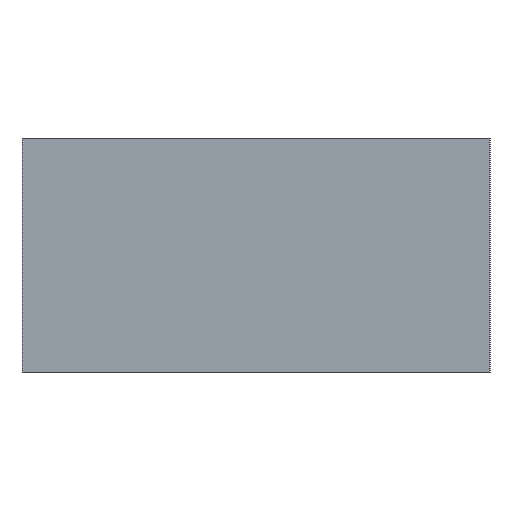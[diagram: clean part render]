
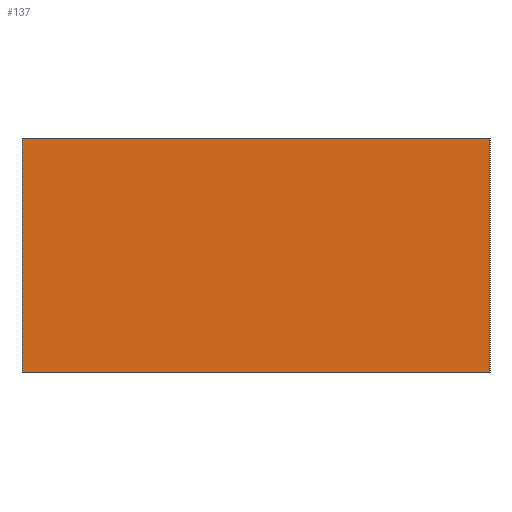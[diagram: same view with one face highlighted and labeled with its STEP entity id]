
A CAD part, left-side view. The second image highlights one B-rep face of the part: STEP entity #137.
In plain terms, the highlighted planar face has unit normal (-1, 0, 0).
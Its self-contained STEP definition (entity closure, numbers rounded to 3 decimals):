
#21 = EDGE_CURVE('',#22,#24,#26,.T.);
#22 = VERTEX_POINT('',#23);
#23 = CARTESIAN_POINT('',(0.,0.,0.));
#24 = VERTEX_POINT('',#25);
#25 = CARTESIAN_POINT('',(0.,0.,2.));
#26 = SURFACE_CURVE('',#27,(#31,#43),.PCURVE_S1.);
#27 = LINE('',#28,#29);
#28 = CARTESIAN_POINT('',(0.,0.,0.));
#29 = VECTOR('',#30,1.);
#30 = DIRECTION('',(0.,0.,1.));
#31 = PCURVE('',#32,#37);
#32 = PLANE('',#33);
#33 = AXIS2_PLACEMENT_3D('',#34,#35,#36);
#34 = CARTESIAN_POINT('',(0.,0.,0.));
#35 = DIRECTION('',(0.,1.,0.));
#36 = DIRECTION('',(1.,0.,0.));
#37 = DEFINITIONAL_REPRESENTATION('',(#38),#42);
#38 = LINE('',#39,#40);
#39 = CARTESIAN_POINT('',(0.,0.));
#40 = VECTOR('',#41,1.);
#41 = DIRECTION('',(0.,-1.));
#42 = ( GEOMETRIC_REPRESENTATION_CONTEXT(2) 
PARAMETRIC_REPRESENTATION_CONTEXT() REPRESENTATION_CONTEXT('2D SPACE',''
  ) );
#43 = PCURVE('',#44,#49);
#44 = PLANE('',#45);
#45 = AXIS2_PLACEMENT_3D('',#46,#47,#48);
#46 = CARTESIAN_POINT('',(0.,4.,0.));
#47 = DIRECTION('',(1.,0.,-0.));
#48 = DIRECTION('',(0.,-1.,0.));
#49 = DEFINITIONAL_REPRESENTATION('',(#50),#54);
#50 = LINE('',#51,#52);
#51 = CARTESIAN_POINT('',(4.,0.));
#52 = VECTOR('',#53,1.);
#53 = DIRECTION('',(0.,-1.));
#54 = ( GEOMETRIC_REPRESENTATION_CONTEXT(2) 
PARAMETRIC_REPRESENTATION_CONTEXT() REPRESENTATION_CONTEXT('2D SPACE',''
  ) );
#72 = PLANE('',#73);
#73 = AXIS2_PLACEMENT_3D('',#74,#75,#76);
#74 = CARTESIAN_POINT('',(5.,2.,2.));
#75 = DIRECTION('',(0.,0.,1.));
#76 = DIRECTION('',(1.,0.,-0.));
#126 = PLANE('',#127);
#127 = AXIS2_PLACEMENT_3D('',#128,#129,#130);
#128 = CARTESIAN_POINT('',(5.,2.,0.));
#129 = DIRECTION('',(0.,0.,1.));
#130 = DIRECTION('',(1.,0.,-0.));
#137 = ADVANCED_FACE('',(#138),#44,.F.);
#138 = FACE_BOUND('',#139,.F.);
#139 = EDGE_LOOP('',(#140,#170,#191,#192));
#140 = ORIENTED_EDGE('',*,*,#141,.T.);
#141 = EDGE_CURVE('',#142,#144,#146,.T.);
#142 = VERTEX_POINT('',#143);
#143 = CARTESIAN_POINT('',(0.,4.,0.));
#144 = VERTEX_POINT('',#145);
#145 = CARTESIAN_POINT('',(0.,4.,2.));
#146 = SURFACE_CURVE('',#147,(#151,#158),.PCURVE_S1.);
#147 = LINE('',#148,#149);
#148 = CARTESIAN_POINT('',(0.,4.,0.));
#149 = VECTOR('',#150,1.);
#150 = DIRECTION('',(0.,0.,1.));
#151 = PCURVE('',#44,#152);
#152 = DEFINITIONAL_REPRESENTATION('',(#153),#157);
#153 = LINE('',#154,#155);
#154 = CARTESIAN_POINT('',(0.,0.));
#155 = VECTOR('',#156,1.);
#156 = DIRECTION('',(0.,-1.));
#157 = ( GEOMETRIC_REPRESENTATION_CONTEXT(2) 
PARAMETRIC_REPRESENTATION_CONTEXT() REPRESENTATION_CONTEXT('2D SPACE',''
  ) );
#158 = PCURVE('',#159,#164);
#159 = PLANE('',#160);
#160 = AXIS2_PLACEMENT_3D('',#161,#162,#163);
#161 = CARTESIAN_POINT('',(10.,4.,0.));
#162 = DIRECTION('',(0.,-1.,0.));
#163 = DIRECTION('',(-1.,0.,0.));
#164 = DEFINITIONAL_REPRESENTATION('',(#165),#169);
#165 = LINE('',#166,#167);
#166 = CARTESIAN_POINT('',(10.,0.));
#167 = VECTOR('',#168,1.);
#168 = DIRECTION('',(0.,-1.));
#169 = ( GEOMETRIC_REPRESENTATION_CONTEXT(2) 
PARAMETRIC_REPRESENTATION_CONTEXT() REPRESENTATION_CONTEXT('2D SPACE',''
  ) );
#170 = ORIENTED_EDGE('',*,*,#171,.T.);
#171 = EDGE_CURVE('',#144,#24,#172,.T.);
#172 = SURFACE_CURVE('',#173,(#177,#184),.PCURVE_S1.);
#173 = LINE('',#174,#175);
#174 = CARTESIAN_POINT('',(0.,4.,2.));
#175 = VECTOR('',#176,1.);
#176 = DIRECTION('',(0.,-1.,0.));
#177 = PCURVE('',#44,#178);
#178 = DEFINITIONAL_REPRESENTATION('',(#179),#183);
#179 = LINE('',#180,#181);
#180 = CARTESIAN_POINT('',(0.,-2.));
#181 = VECTOR('',#182,1.);
#182 = DIRECTION('',(1.,0.));
#183 = ( GEOMETRIC_REPRESENTATION_CONTEXT(2) 
PARAMETRIC_REPRESENTATION_CONTEXT() REPRESENTATION_CONTEXT('2D SPACE',''
  ) );
#184 = PCURVE('',#72,#185);
#185 = DEFINITIONAL_REPRESENTATION('',(#186),#190);
#186 = LINE('',#187,#188);
#187 = CARTESIAN_POINT('',(-5.,2.));
#188 = VECTOR('',#189,1.);
#189 = DIRECTION('',(0.,-1.));
#190 = ( GEOMETRIC_REPRESENTATION_CONTEXT(2) 
PARAMETRIC_REPRESENTATION_CONTEXT() REPRESENTATION_CONTEXT('2D SPACE',''
  ) );
#191 = ORIENTED_EDGE('',*,*,#21,.F.);
#192 = ORIENTED_EDGE('',*,*,#193,.F.);
#193 = EDGE_CURVE('',#142,#22,#194,.T.);
#194 = SURFACE_CURVE('',#195,(#199,#206),.PCURVE_S1.);
#195 = LINE('',#196,#197);
#196 = CARTESIAN_POINT('',(0.,4.,0.));
#197 = VECTOR('',#198,1.);
#198 = DIRECTION('',(0.,-1.,0.));
#199 = PCURVE('',#44,#200);
#200 = DEFINITIONAL_REPRESENTATION('',(#201),#205);
#201 = LINE('',#202,#203);
#202 = CARTESIAN_POINT('',(0.,0.));
#203 = VECTOR('',#204,1.);
#204 = DIRECTION('',(1.,0.));
#205 = ( GEOMETRIC_REPRESENTATION_CONTEXT(2) 
PARAMETRIC_REPRESENTATION_CONTEXT() REPRESENTATION_CONTEXT('2D SPACE',''
  ) );
#206 = PCURVE('',#126,#207);
#207 = DEFINITIONAL_REPRESENTATION('',(#208),#212);
#208 = LINE('',#209,#210);
#209 = CARTESIAN_POINT('',(-5.,2.));
#210 = VECTOR('',#211,1.);
#211 = DIRECTION('',(0.,-1.));
#212 = ( GEOMETRIC_REPRESENTATION_CONTEXT(2) 
PARAMETRIC_REPRESENTATION_CONTEXT() REPRESENTATION_CONTEXT('2D SPACE',''
  ) );
